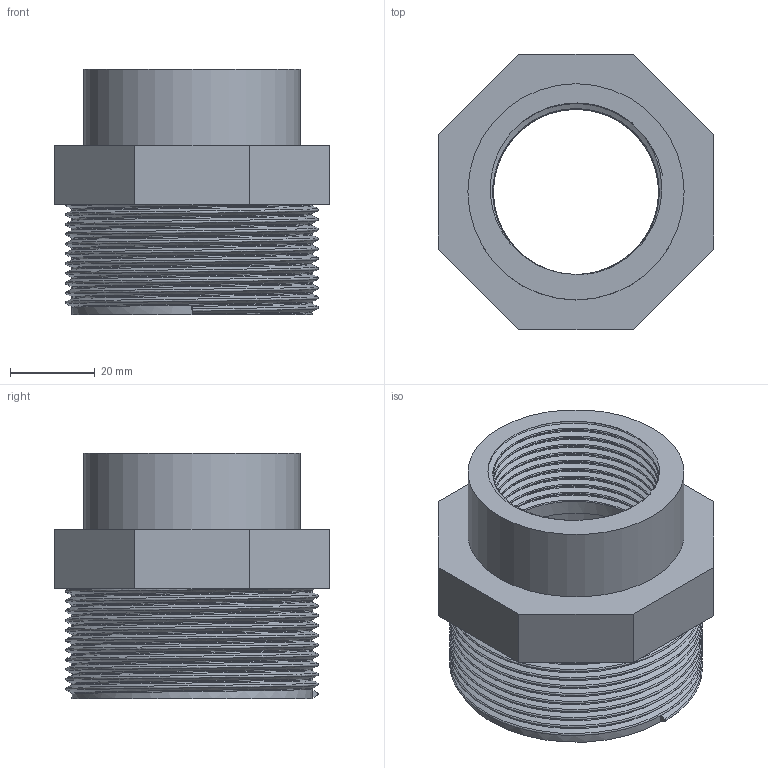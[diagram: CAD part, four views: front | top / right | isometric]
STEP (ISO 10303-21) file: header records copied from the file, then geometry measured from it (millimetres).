
FILE_DESCRIPTION(/* description */ (''),/* implementation_level */ '2;1');
FILE_NAME(/* name */ 'C:\Users\POLYPIPE\Desktop\DATASET INVENTOR\LIBRERIA EFFAST\RACCORDI 3DxWEB\RER\3D_RERRIE\3D_RERRIE063E.stp',/* time_stamp */ '2018-01-19T17:06:01+01:00',/* author */ ('POLYPIPE'),/* organization */ ('Polypipe Italia'),/* preprocessor_version */ 'ST-DEVELOPER v16.1',/* originating_system */ 'Autodesk Inventor 2016',/* authorisation */ '');
FILE_SCHEMA (('CONFIG_CONTROL_DESIGN'));
Length unit declared in the file: millimetre
Products named in the file (1): 3D_RERRIE063E
Bounding box: 65 x 65 x 58 mm (x, y, z)
Volume: 69409.5 mm3; surface area: 28131.9 mm2
Topology: 1 solids, 1 shells, 29 faces, 68 edges, 44 vertices
Faces by surface type: plane 15, bspline 10, cylinder 4
Full cylindrical faces by diameter (mm): 38.952 x1, 45.5 x1, 51 x1, 56.656 x1
Entity records: 8811 total; most frequent: CARTESIAN_POINT 8196, ORIENTED_EDGE 128, DIRECTION 94, EDGE_CURVE 64, VERTEX_POINT 43, EDGE_LOOP 37, AXIS2_PLACEMENT_3D 32, LINE 30
